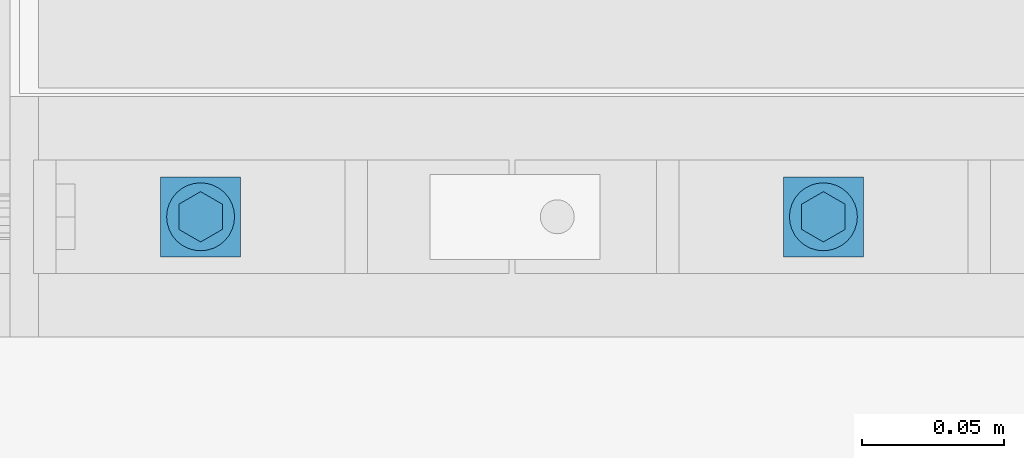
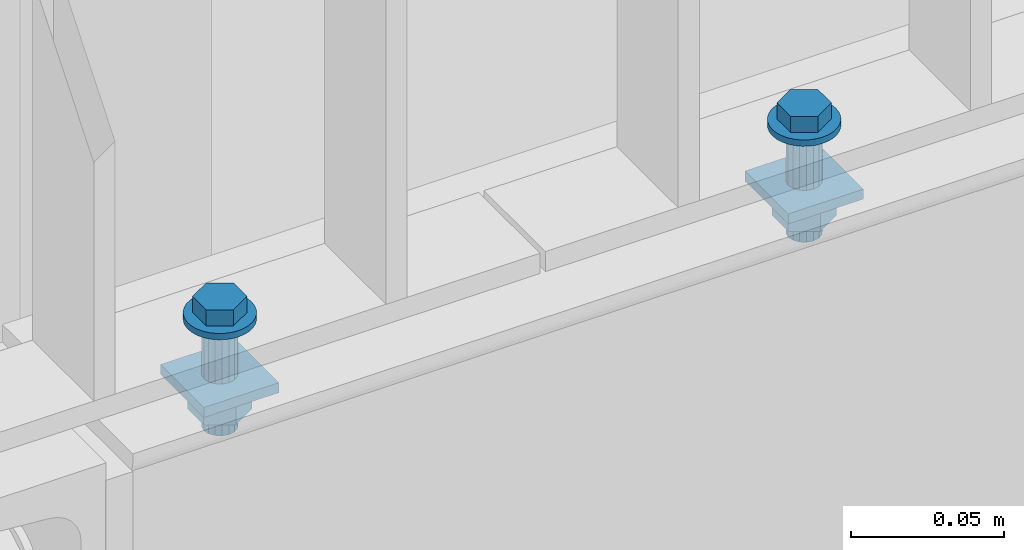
# One storey, part 54 of 145: 2 mechanical fasteners.
"""IFC2X3 building model written with IfcOpenShell, lengths in millimetres."""

import ifcopenshell
import ifcopenshell.guid

model = None  # the IFC model being written
_history = None  # IfcOwnerHistory: only IFC2X3 demands one
_inside = {}  # id of a spatial element -> (the spatial element, [elements in it])
_under = {}  # id of a project, library or spatial element -> (it, [spatial elements below it])
_declared = {}  # id of a project -> (the project, [libraries it declares])
_typed = {}  # id of a type object -> (the type object, [elements of that type])
_made_of = {}  # id of a material, layer set ... -> (it, [elements and type objects made of it])


def new_model(schema):
    """Start an empty IFC model of exactly this schema.

    Asked for "IFC4X3", IfcOpenShell would pick the latest addendum, in which some entities
    have other attributes; the version numbers below select the first issue.
    IFC2X3 requires an IfcOwnerHistory on every rooted entity: one is made here for all.
    """
    global model, _history
    if schema == "IFC4X3":
        model = ifcopenshell.file(schema_version=(4, 3, 0, 0))
    else:
        model = ifcopenshell.file(schema=schema)
    _inside.clear()
    _under.clear()
    _declared.clear()
    _typed.clear()
    _made_of.clear()
    _history = None
    if model.schema == "IFC2X3":
        org = make("IfcOrganization", Name="unknown")
        user = make(
            "IfcPersonAndOrganization",
            ThePerson=make("IfcPerson", FamilyName="unknown"),
            TheOrganization=org,
        )
        app = make(
            "IfcApplication",
            ApplicationDeveloper=org,
            Version="unknown",
            ApplicationFullName="unknown",
            ApplicationIdentifier="unknown",
        )
        _history = make(
            "IfcOwnerHistory",
            OwningUser=user,
            OwningApplication=app,
            ChangeAction="ADDED",
            CreationDate=0,
        )
    return model


def make(cls, **values):
    """One entity of the class cls with the attributes given. An attribute that is None is left unset."""
    return model.create_entity(
        cls, **{name: value for name, value in values.items() if value is not None}
    )


def entity(cls, *values):
    """Any entity or typed value of the class cls, its attributes in the order of the schema. None: left unset."""
    e = model.create_entity(cls)
    for i, value in enumerate(values):
        if value is not None:
            e[i] = value
    return e


def rooted(cls, **values):
    """An entity with a GlobalId (a new one), such as an element, a storey or a relation."""
    return make(cls, GlobalId=ifcopenshell.guid.new(), OwnerHistory=_history, **values)


def si_unit(unit_type, name, prefix=None):
    """IfcSIUnit, for example si_unit("LENGTHUNIT", "METRE", prefix="MILLI")."""
    return make("IfcSIUnit", UnitType=unit_type, Prefix=prefix, Name=name)


def converted_unit(unit_type, name, factor, base, dimensions=None, offset=None):
    """IfcConversionBasedUnit, such as the inch: factor (a typed value) times the base unit."""
    return make(
        "IfcConversionBasedUnit"
        if offset is None
        else "IfcConversionBasedUnitWithOffset",
        ConversionOffset=offset,
        Dimensions=None
        if dimensions is None
        else entity("IfcDimensionalExponents", *dimensions),
        UnitType=unit_type,
        Name=name,
        ConversionFactor=make(
            "IfcMeasureWithUnit", ValueComponent=factor, UnitComponent=base
        ),
    )


def assignment(units):
    """IfcUnitAssignment: the units of a project."""
    return None if units is None else make("IfcUnitAssignment", Units=units)


def point(xyz):
    """IfcCartesianPoint."""
    return None if xyz is None else make("IfcCartesianPoint", Coordinates=xyz)


def direction(xyz):
    """IfcDirection."""
    return None if xyz is None else make("IfcDirection", DirectionRatios=xyz)


def frame(location, z_axis=None, x_axis=None):
    """IfcAxis2Placement3D, a coordinate frame: its origin and axes. An axis left out is left unset."""
    return make(
        "IfcAxis2Placement3D",
        Location=point(location),
        Axis=direction(z_axis),
        RefDirection=direction(x_axis),
    )


def origin_with_axes():
    """The frame at (0, 0, 0) with the z axis (0, 0, 1) and the x axis (1, 0, 0) written out."""
    return frame((0.0, 0.0, 0.0), z_axis=(0.0, 0.0, 1.0), x_axis=(1.0, 0.0, 0.0))


def place(relative_to, where):
    """IfcLocalPlacement: puts the frame where relative to a parent placement (None: the world)."""
    return make(
        "IfcLocalPlacement", PlacementRelTo=relative_to, RelativePlacement=where
    )


def context(
    kind, dimensions, precision=None, world=None, true_north=None, identifier=None
):
    """IfcGeometricRepresentationContext, for example the 3D "Model" context."""
    return make(
        "IfcGeometricRepresentationContext",
        ContextIdentifier=identifier,
        ContextType=kind,
        CoordinateSpaceDimension=dimensions,
        Precision=precision,
        WorldCoordinateSystem=world,
        TrueNorth=true_north,
    )


def project(units=None, contexts=None):
    """IfcProject with its units and contexts."""
    return rooted(
        "IfcProject",
        Name="project",
        RepresentationContexts=contexts,
        UnitsInContext=assignment(units),
    )


def spatial(cls, under=None, at=None, **own):
    """A site, building, storey or space (cls), placed at a placement, below another one or the project."""
    s = rooted(cls, ObjectPlacement=at, **own)
    if under is not None:
        _under.setdefault(under.id(), (under, []))[1].append(s)
    return s


def faces_of(points, faces, orient=None, outer=None):
    """IfcFace entities. A face is a list of loops; a loop is a list of indices into points, from 0.

    orient and outer hold one flag for each loop. By default every Orientation is true, the
    first loop of a face is its IfcFaceOuterBound and the others are IfcFaceBound.
    """
    made = []
    for i, loops in enumerate(faces):
        bounds = []
        for j, loop in enumerate(loops):
            is_outer = j == 0 if outer is None else outer[i][j]
            bounds.append(
                make(
                    "IfcFaceOuterBound" if is_outer else "IfcFaceBound",
                    Bound=make("IfcPolyLoop", Polygon=[points[k] for k in loop]),
                    Orientation=True if orient is None else orient[i][j],
                )
            )
        made.append(make("IfcFace", Bounds=bounds))
    return made


def faceted_brep(points, faces, orient=None, outer=None, voids=None):
    """IfcFacetedBrep: a solid bounded by flat faces; with voids (closed shells), ...WithVoids."""
    shared = [point(p) for p in points]
    hull = make("IfcClosedShell", CfsFaces=faces_of(shared, faces, orient, outer))
    if voids is None:
        return make("IfcFacetedBrep", Outer=hull)
    return make(
        "IfcFacetedBrepWithVoids",
        Outer=hull,
        Voids=[
            make(cls, CfsFaces=faces_of(shared, fs, o, b)) for cls, fs, o, b in voids
        ],
    )


def shape(context_of_items, identifier, shape_type, items):
    """IfcShapeRepresentation: the items that make up one representation, for example the "Body"."""
    return make(
        "IfcShapeRepresentation",
        ContextOfItems=context_of_items,
        RepresentationIdentifier=identifier,
        RepresentationType=shape_type,
        Items=items,
    )


def made_of(thing, what):
    """Note that an element or type object is made of a material, layer set ...; save() writes the relation."""
    if what is not None:
        _made_of.setdefault(what.id(), (what, []))[1].append(thing)
    return thing


def element(
    cls,
    number,
    at=None,
    inside=None,
    cuts=None,
    type_object=None,
    material=None,
    context=None,
    identifier="Body",
    shape_type=None,
    held_by="IfcProductDefinitionShape",
    body=None,
    shapes=None,
    **own,
):
    """One element of the class cls, such as IfcWall. Its Tag is "e" and its number.

    at: its placement. inside: the storey or other place that contains it. cuts: it is an
    opening in that element (IfcRelVoidsElement). A single representation is given by context,
    identifier, shape_type and body (its items); several are given by shapes. held_by: the class
    of the entity that holds the representations. save() writes the other relations.
    """
    e = rooted(cls, Tag="e%d" % number, ObjectPlacement=at, **own)
    if body is not None:
        shapes = [shape(context, identifier, shape_type, body)]
    if shapes is not None:
        e.Representation = make(held_by, Representations=shapes)
    if inside is not None:
        _inside.setdefault(inside.id(), (inside, []))[1].append(e)
    if cuts is not None:
        rooted(
            "IfcRelVoidsElement", RelatingBuildingElement=cuts, RelatedOpeningElement=e
        )
    if type_object is not None:
        _typed.setdefault(type_object.id(), (type_object, []))[1].append(e)
    return made_of(e, material)


def aggregate(whole, parts):
    """IfcRelAggregates: a whole, such as a stair, and the parts it consists of."""
    return rooted("IfcRelAggregates", RelatingObject=whole, RelatedObjects=parts)


def save(model, path):
    """Write the relations noted so far, then the file.

    IfcRelAggregates (storeys below a building ...), IfcRelContainedInSpatialStructure (elements
    in a storey), IfcRelDefinesByType, IfcRelAssociatesMaterial and IfcRelDeclares: one each for
    every whole, place, type object, material and project.
    """
    for whole, parts in _under.values():
        aggregate(whole, parts)
    for where, things in _inside.values():
        rooted(
            "IfcRelContainedInSpatialStructure",
            RelatedElements=things,
            RelatingStructure=where,
        )
    for kind, things in _typed.values():
        rooted("IfcRelDefinesByType", RelatedObjects=things, RelatingType=kind)
    for what, things in _made_of.values():
        rooted("IfcRelAssociatesMaterial", RelatedObjects=things, RelatingMaterial=what)
    for by, libraries in _declared.values():
        rooted("IfcRelDeclares", RelatingContext=by, RelatedDefinitions=libraries)
    model.write(path)


model = new_model("IFC2X3")

# Units and contexts
model_context = context("Model", 3, precision=1e-09, world=origin_with_axes())
ifc_project = project(units=[si_unit("LENGTHUNIT", "METRE", prefix="MILLI"), si_unit("AREAUNIT", "SQUARE_METRE"), si_unit("VOLUMEUNIT", "CUBIC_METRE"), converted_unit("PLANEANGLEUNIT", "DEGREE", entity("IfcPlaneAngleMeasure", 0.01745329), si_unit("PLANEANGLEUNIT", "RADIAN"), dimensions=[0, 0, 0, 0, 0, 0, 0])], contexts=[model_context])

# Site, building, storey
site_placement = place(None, origin_with_axes())
site = spatial("IfcSite", under=ifc_project, at=site_placement, Name="BZ1 Grund- und Mittelschule 85716 Unterschlei?heim", CompositionType="ELEMENT")
building_placement = place(site_placement, origin_with_axes())
building = spatial("IfcBuilding", under=site, at=building_placement, Name="Struktur 1", CompositionType="ELEMENT")
storey_placement = place(building_placement, origin_with_axes())
storey = spatial("IfcBuildingStorey", under=building, at=storey_placement, Name="Default Storey", CompositionType="ELEMENT", Elevation=0.0)

# Mechanical fasteners
mechanical_fastener_1_placement = place(None, origin_with_axes())
element("IfcMechanicalFastener", 1, at=mechanical_fastener_1_placement, inside=storey, ObjectType="-", NominalDiameter=12.0, NominalLength=45.0, context=model_context, shape_type="Brep", body=[
    faceted_brep([(16070.141490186, -1512.502, 3308.000000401), (16070.141490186, -1512.502, 3310.500000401), (16069.910913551, -1514.843083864, 3310.500000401), (16069.910913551, -1514.843083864, 3308.000000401), (16069.228044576, -1517.094201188, 3310.500000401), (16069.228044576, -1517.094201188, 3308.000000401), (16068.119125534, -1519.168842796, 3310.500000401), (16068.119125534, -1519.168842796, 3308.000000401), (16066.62677156, -1520.987281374, 3310.500000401), (16066.62677156, -1520.987281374, 3308.000000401), (16064.808332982, -1522.479635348, 3310.500000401), (16064.808332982, -1522.479635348, 3308.000000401), (16062.733691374, -1523.58855439, 3310.500000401), (16062.733691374, -1523.58855439, 3308.000000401), (16060.48257405, -1524.271423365, 3310.500000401), (16060.48257405, -1524.271423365, 3308.000000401), (16058.141490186, -1524.502, 3310.500000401), (16058.141490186, -1524.502, 3308.000000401), (16055.800406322, -1524.271423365, 3310.500000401), (16055.800406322, -1524.271423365, 3308.000000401), (16053.549288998, -1523.58855439, 3310.500000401), (16053.549288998, -1523.58855439, 3308.000000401), (16051.47464739, -1522.479635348, 3310.500000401), (16051.47464739, -1522.479635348, 3308.000000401), (16049.656208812, -1520.987281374, 3310.500000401), (16049.656208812, -1520.987281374, 3308.000000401), (16048.163854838, -1519.168842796, 3310.500000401), (16048.163854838, -1519.168842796, 3308.000000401), (16047.054935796, -1517.094201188, 3310.500000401), (16047.054935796, -1517.094201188, 3308.000000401), (16046.372066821, -1514.843083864, 3310.500000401), (16046.372066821, -1514.843083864, 3308.000000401), (16046.141490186, -1512.502, 3310.500000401), (16046.141490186, -1512.502, 3308.000000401), (16046.372066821, -1510.160916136, 3310.500000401), (16046.372066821, -1510.160916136, 3308.000000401), (16047.054935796, -1507.909798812, 3310.500000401), (16047.054935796, -1507.909798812, 3308.000000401), (16048.163854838, -1505.835157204, 3310.500000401), (16048.163854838, -1505.835157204, 3308.000000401), (16049.656208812, -1504.016718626, 3310.500000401), (16049.656208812, -1504.016718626, 3308.000000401), (16051.47464739, -1502.524364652, 3310.500000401), (16051.47464739, -1502.524364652, 3308.000000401), (16053.549288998, -1501.41544561, 3310.500000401), (16053.549288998, -1501.41544561, 3308.000000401), (16055.800406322, -1500.732576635, 3310.500000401), (16055.800406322, -1500.732576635, 3308.000000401), (16058.141490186, -1500.502, 3310.500000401), (16058.141490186, -1500.502, 3308.000000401), (16060.48257405, -1500.732576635, 3310.500000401), (16060.48257405, -1500.732576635, 3308.000000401), (16062.733691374, -1501.41544561, 3310.500000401), (16062.733691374, -1501.41544561, 3308.000000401), (16064.808332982, -1502.524364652, 3310.500000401), (16064.808332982, -1502.524364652, 3308.000000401), (16066.62677156, -1504.016718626, 3310.500000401), (16066.62677156, -1504.016718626, 3308.000000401), (16068.119125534, -1505.835157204, 3310.500000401), (16068.119125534, -1505.835157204, 3308.000000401), (16069.228044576, -1507.909798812, 3310.500000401), (16069.228044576, -1507.909798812, 3308.000000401), (16069.910913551, -1510.160916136, 3310.500000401), (16069.910913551, -1510.160916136, 3308.000000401)], [[[0, 1, 2, 3]], [[3, 2, 4, 5]], [[5, 4, 6, 7]], [[7, 6, 8, 9]], [[9, 8, 10, 11]], [[11, 10, 12, 13]], [[13, 12, 14, 15]], [[15, 14, 16, 17]], [[17, 16, 18, 19]], [[19, 18, 20, 21]], [[21, 20, 22, 23]], [[23, 22, 24, 25]], [[25, 24, 26, 27]], [[27, 26, 28, 29]], [[29, 28, 30, 31]], [[31, 30, 32, 33]], [[33, 32, 34, 35]], [[35, 34, 36, 37]], [[37, 36, 38, 39]], [[39, 38, 40, 41]], [[41, 40, 42, 43]], [[43, 42, 44, 45]], [[45, 44, 46, 47]], [[47, 46, 48, 49]], [[49, 48, 50, 51]], [[51, 50, 52, 53]], [[53, 52, 54, 55]], [[55, 54, 56, 57]], [[57, 56, 58, 59]], [[59, 58, 60, 61]], [[61, 60, 62, 63]], [[63, 62, 1, 0]], [[2, 1, 62, 60, 58, 56, 54, 52, 50, 48, 46, 44, 42, 40, 38, 36, 34, 32, 30, 28, 26, 24, 22, 20, 18, 16, 14, 12, 10, 8, 6, 4]], [[63, 0, 3, 5, 7, 9, 11, 13, 15, 17, 19, 21, 23, 25, 27, 29, 31, 33, 35, 37, 39, 41, 43, 45, 47, 49, 51, 53, 55, 57, 59, 61]]]),
    faceted_brep([(16050.446854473, -1516.9445, 3316.900000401), (16050.446854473, -1516.9445, 3310.500000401), (16058.141490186, -1521.387, 3310.500000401), (16058.141490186, -1521.387, 3316.900000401), (16065.836125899, -1516.9445, 3310.500000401), (16065.836125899, -1516.9445, 3316.900000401), (16065.836125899, -1508.0595, 3310.500000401), (16065.836125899, -1508.0595, 3316.900000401), (16058.141490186, -1503.617, 3310.500000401), (16058.141490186, -1503.617, 3316.900000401), (16050.446854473, -1508.0595, 3310.500000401), (16050.446854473, -1508.0595, 3316.900000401)], [[[0, 1, 2, 3]], [[3, 2, 4, 5]], [[5, 4, 6, 7]], [[7, 6, 8, 9]], [[9, 8, 10, 11]], [[11, 10, 1, 0]], [[3, 5, 7, 9, 11, 0]], [[2, 1, 10, 8, 6, 4]]]),
    faceted_brep([(16064.141490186, -1512.502, 3286.197294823), (16064.141490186, -1512.502, 3308.000000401), (16063.684767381, -1514.798100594, 3308.000000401), (16063.684767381, -1514.798100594, 3286.197294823), (16062.384130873, -1516.744640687, 3308.000000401), (16062.384130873, -1516.744640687, 3286.197294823), (16060.43759078, -1518.045277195, 3308.000000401), (16060.43759078, -1518.045277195, 3286.197294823), (16058.141490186, -1518.502, 3308.000000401), (16058.141490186, -1518.502, 3286.197294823), (16055.845389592, -1518.045277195, 3308.000000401), (16055.845389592, -1518.045277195, 3286.197294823), (16053.898849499, -1516.744640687, 3308.000000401), (16053.898849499, -1516.744640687, 3286.197294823), (16052.598212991, -1514.798100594, 3308.000000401), (16052.598212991, -1514.798100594, 3286.197294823), (16052.141490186, -1512.502, 3308.000000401), (16052.141490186, -1512.502, 3286.197294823), (16052.598212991, -1510.205899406, 3308.000000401), (16052.598212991, -1510.205899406, 3286.197294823), (16053.898849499, -1508.259359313, 3308.000000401), (16053.898849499, -1508.259359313, 3286.197294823), (16055.845389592, -1506.958722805, 3308.000000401), (16055.845389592, -1506.958722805, 3286.197294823), (16058.141490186, -1506.502, 3308.000000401), (16058.141490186, -1506.502, 3286.197294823), (16060.43759078, -1506.958722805, 3308.000000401), (16060.43759078, -1506.958722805, 3286.197294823), (16062.384130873, -1508.259359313, 3308.000000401), (16062.384130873, -1508.259359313, 3286.197294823), (16063.684767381, -1510.205899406, 3308.000000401), (16063.684767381, -1510.205899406, 3286.197294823)], [[[0, 1, 2, 3]], [[3, 2, 4, 5]], [[5, 4, 6, 7]], [[7, 6, 8, 9]], [[9, 8, 10, 11]], [[11, 10, 12, 13]], [[13, 12, 14, 15]], [[15, 14, 16, 17]], [[17, 16, 18, 19]], [[19, 18, 20, 21]], [[21, 20, 22, 23]], [[23, 22, 24, 25]], [[25, 24, 26, 27]], [[27, 26, 28, 29]], [[29, 28, 30, 31]], [[31, 30, 1, 0]], [[2, 1, 30, 28, 26, 24, 22, 20, 18, 16, 14, 12, 10, 8, 6, 4]], [[31, 0, 3, 5, 7, 9, 11, 13, 15, 17, 19, 21, 23, 25, 27, 29]]]),
    faceted_brep([(16043.999354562, -1526.644135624, 3286.197294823), (16043.999354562, -1526.644135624, 3282.197294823), (16072.28362581, -1526.644135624, 3282.197294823), (16072.28362581, -1526.644135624, 3286.197294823), (16072.28362581, -1498.359864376, 3282.197294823), (16072.28362581, -1498.359864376, 3286.197294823), (16043.999354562, -1498.359864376, 3282.197294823), (16043.999354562, -1498.359864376, 3286.197294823)], [[[0, 1, 2, 3]], [[3, 2, 4, 5]], [[5, 4, 6, 7]], [[7, 6, 1, 0]], [[3, 5, 7, 0]], [[2, 1, 6, 4]]]),
    faceted_brep([(16049.004922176, -1517.777, 3282.197294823), (16049.004922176, -1517.777, 3272.197294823), (16058.141490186, -1523.052, 3272.197294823), (16058.141490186, -1523.052, 3282.197294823), (16067.278058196, -1517.777, 3272.197294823), (16067.278058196, -1517.777, 3282.197294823), (16067.278058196, -1507.227, 3272.197294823), (16067.278058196, -1507.227, 3282.197294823), (16058.141490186, -1501.952, 3272.197294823), (16058.141490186, -1501.952, 3282.197294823), (16049.004922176, -1507.227, 3272.197294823), (16049.004922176, -1507.227, 3282.197294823)], [[[0, 1, 2, 3]], [[3, 2, 4, 5]], [[5, 4, 6, 7]], [[7, 6, 8, 9]], [[9, 8, 10, 11]], [[11, 10, 1, 0]], [[3, 5, 7, 9, 11, 0]], [[2, 1, 10, 8, 6, 4]]]),
    faceted_brep([(16064.141490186, -1512.502, 3265.500000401), (16064.141490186, -1512.502, 3272.197294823), (16063.684767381, -1514.798100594, 3272.197294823), (16063.684767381, -1514.798100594, 3265.500000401), (16062.384130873, -1516.744640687, 3272.197294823), (16062.384130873, -1516.744640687, 3265.500000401), (16060.43759078, -1518.045277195, 3272.197294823), (16060.43759078, -1518.045277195, 3265.500000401), (16058.141490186, -1518.502, 3272.197294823), (16058.141490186, -1518.502, 3265.500000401), (16055.845389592, -1518.045277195, 3272.197294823), (16055.845389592, -1518.045277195, 3265.500000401), (16053.898849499, -1516.744640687, 3272.197294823), (16053.898849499, -1516.744640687, 3265.500000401), (16052.598212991, -1514.798100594, 3272.197294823), (16052.598212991, -1514.798100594, 3265.500000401), (16052.141490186, -1512.502, 3272.197294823), (16052.141490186, -1512.502, 3265.500000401), (16052.598212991, -1510.205899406, 3272.197294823), (16052.598212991, -1510.205899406, 3265.500000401), (16053.898849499, -1508.259359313, 3272.197294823), (16053.898849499, -1508.259359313, 3265.500000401), (16055.845389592, -1506.958722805, 3272.197294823), (16055.845389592, -1506.958722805, 3265.500000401), (16058.141490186, -1506.502, 3272.197294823), (16058.141490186, -1506.502, 3265.500000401), (16060.43759078, -1506.958722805, 3272.197294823), (16060.43759078, -1506.958722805, 3265.500000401), (16062.384130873, -1508.259359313, 3272.197294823), (16062.384130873, -1508.259359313, 3265.500000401), (16063.684767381, -1510.205899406, 3272.197294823), (16063.684767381, -1510.205899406, 3265.500000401)], [[[0, 1, 2, 3]], [[3, 2, 4, 5]], [[5, 4, 6, 7]], [[7, 6, 8, 9]], [[9, 8, 10, 11]], [[11, 10, 12, 13]], [[13, 12, 14, 15]], [[15, 14, 16, 17]], [[17, 16, 18, 19]], [[19, 18, 20, 21]], [[21, 20, 22, 23]], [[23, 22, 24, 25]], [[25, 24, 26, 27]], [[27, 26, 28, 29]], [[29, 28, 30, 31]], [[31, 30, 1, 0]], [[2, 1, 30, 28, 26, 24, 22, 20, 18, 16, 14, 12, 10, 8, 6, 4]], [[31, 0, 3, 5, 7, 9, 11, 13, 15, 17, 19, 21, 23, 25, 27, 29]]]),
])
mechanical_fastener_2_placement = place(None, origin_with_axes())
element("IfcMechanicalFastener", 2, at=mechanical_fastener_2_placement, inside=storey, ObjectType="-", NominalDiameter=12.0, NominalLength=45.0, context=model_context, shape_type="Brep", body=[
    faceted_brep([(15850.141490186, -1512.502, 3308.000000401), (15850.141490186, -1512.502, 3310.500000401), (15849.910913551, -1514.843083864, 3310.500000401), (15849.910913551, -1514.843083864, 3308.000000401), (15849.228044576, -1517.094201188, 3310.500000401), (15849.228044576, -1517.094201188, 3308.000000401), (15848.119125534, -1519.168842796, 3310.500000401), (15848.119125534, -1519.168842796, 3308.000000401), (15846.62677156, -1520.987281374, 3310.500000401), (15846.62677156, -1520.987281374, 3308.000000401), (15844.808332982, -1522.479635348, 3310.500000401), (15844.808332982, -1522.479635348, 3308.000000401), (15842.733691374, -1523.58855439, 3310.500000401), (15842.733691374, -1523.58855439, 3308.000000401), (15840.48257405, -1524.271423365, 3310.500000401), (15840.48257405, -1524.271423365, 3308.000000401), (15838.141490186, -1524.502, 3310.500000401), (15838.141490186, -1524.502, 3308.000000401), (15835.800406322, -1524.271423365, 3310.500000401), (15835.800406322, -1524.271423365, 3308.000000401), (15833.549288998, -1523.58855439, 3310.500000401), (15833.549288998, -1523.58855439, 3308.000000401), (15831.47464739, -1522.479635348, 3310.500000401), (15831.47464739, -1522.479635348, 3308.000000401), (15829.656208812, -1520.987281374, 3310.500000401), (15829.656208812, -1520.987281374, 3308.000000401), (15828.163854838, -1519.168842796, 3310.500000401), (15828.163854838, -1519.168842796, 3308.000000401), (15827.054935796, -1517.094201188, 3310.500000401), (15827.054935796, -1517.094201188, 3308.000000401), (15826.372066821, -1514.843083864, 3310.500000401), (15826.372066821, -1514.843083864, 3308.000000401), (15826.141490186, -1512.502, 3310.500000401), (15826.141490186, -1512.502, 3308.000000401), (15826.372066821, -1510.160916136, 3310.500000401), (15826.372066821, -1510.160916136, 3308.000000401), (15827.054935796, -1507.909798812, 3310.500000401), (15827.054935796, -1507.909798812, 3308.000000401), (15828.163854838, -1505.835157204, 3310.500000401), (15828.163854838, -1505.835157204, 3308.000000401), (15829.656208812, -1504.016718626, 3310.500000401), (15829.656208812, -1504.016718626, 3308.000000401), (15831.47464739, -1502.524364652, 3310.500000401), (15831.47464739, -1502.524364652, 3308.000000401), (15833.549288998, -1501.41544561, 3310.500000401), (15833.549288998, -1501.41544561, 3308.000000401), (15835.800406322, -1500.732576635, 3310.500000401), (15835.800406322, -1500.732576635, 3308.000000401), (15838.141490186, -1500.502, 3310.500000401), (15838.141490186, -1500.502, 3308.000000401), (15840.48257405, -1500.732576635, 3310.500000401), (15840.48257405, -1500.732576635, 3308.000000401), (15842.733691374, -1501.41544561, 3310.500000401), (15842.733691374, -1501.41544561, 3308.000000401), (15844.808332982, -1502.524364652, 3310.500000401), (15844.808332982, -1502.524364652, 3308.000000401), (15846.62677156, -1504.016718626, 3310.500000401), (15846.62677156, -1504.016718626, 3308.000000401), (15848.119125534, -1505.835157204, 3310.500000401), (15848.119125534, -1505.835157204, 3308.000000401), (15849.228044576, -1507.909798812, 3310.500000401), (15849.228044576, -1507.909798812, 3308.000000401), (15849.910913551, -1510.160916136, 3310.500000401), (15849.910913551, -1510.160916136, 3308.000000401)], [[[0, 1, 2, 3]], [[3, 2, 4, 5]], [[5, 4, 6, 7]], [[7, 6, 8, 9]], [[9, 8, 10, 11]], [[11, 10, 12, 13]], [[13, 12, 14, 15]], [[15, 14, 16, 17]], [[17, 16, 18, 19]], [[19, 18, 20, 21]], [[21, 20, 22, 23]], [[23, 22, 24, 25]], [[25, 24, 26, 27]], [[27, 26, 28, 29]], [[29, 28, 30, 31]], [[31, 30, 32, 33]], [[33, 32, 34, 35]], [[35, 34, 36, 37]], [[37, 36, 38, 39]], [[39, 38, 40, 41]], [[41, 40, 42, 43]], [[43, 42, 44, 45]], [[45, 44, 46, 47]], [[47, 46, 48, 49]], [[49, 48, 50, 51]], [[51, 50, 52, 53]], [[53, 52, 54, 55]], [[55, 54, 56, 57]], [[57, 56, 58, 59]], [[59, 58, 60, 61]], [[61, 60, 62, 63]], [[63, 62, 1, 0]], [[2, 1, 62, 60, 58, 56, 54, 52, 50, 48, 46, 44, 42, 40, 38, 36, 34, 32, 30, 28, 26, 24, 22, 20, 18, 16, 14, 12, 10, 8, 6, 4]], [[63, 0, 3, 5, 7, 9, 11, 13, 15, 17, 19, 21, 23, 25, 27, 29, 31, 33, 35, 37, 39, 41, 43, 45, 47, 49, 51, 53, 55, 57, 59, 61]]]),
    faceted_brep([(15830.446854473, -1516.9445, 3316.900000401), (15830.446854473, -1516.9445, 3310.500000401), (15838.141490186, -1521.387, 3310.500000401), (15838.141490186, -1521.387, 3316.900000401), (15845.836125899, -1516.9445, 3310.500000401), (15845.836125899, -1516.9445, 3316.900000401), (15845.836125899, -1508.0595, 3310.500000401), (15845.836125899, -1508.0595, 3316.900000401), (15838.141490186, -1503.617, 3310.500000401), (15838.141490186, -1503.617, 3316.900000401), (15830.446854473, -1508.0595, 3310.500000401), (15830.446854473, -1508.0595, 3316.900000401)], [[[0, 1, 2, 3]], [[3, 2, 4, 5]], [[5, 4, 6, 7]], [[7, 6, 8, 9]], [[9, 8, 10, 11]], [[11, 10, 1, 0]], [[3, 5, 7, 9, 11, 0]], [[2, 1, 10, 8, 6, 4]]]),
    faceted_brep([(15844.141490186, -1512.502, 3286.197294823), (15844.141490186, -1512.502, 3308.000000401), (15843.684767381, -1514.798100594, 3308.000000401), (15843.684767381, -1514.798100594, 3286.197294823), (15842.384130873, -1516.744640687, 3308.000000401), (15842.384130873, -1516.744640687, 3286.197294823), (15840.43759078, -1518.045277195, 3308.000000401), (15840.43759078, -1518.045277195, 3286.197294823), (15838.141490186, -1518.502, 3308.000000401), (15838.141490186, -1518.502, 3286.197294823), (15835.845389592, -1518.045277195, 3308.000000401), (15835.845389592, -1518.045277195, 3286.197294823), (15833.898849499, -1516.744640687, 3308.000000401), (15833.898849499, -1516.744640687, 3286.197294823), (15832.598212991, -1514.798100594, 3308.000000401), (15832.598212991, -1514.798100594, 3286.197294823), (15832.141490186, -1512.502, 3308.000000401), (15832.141490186, -1512.502, 3286.197294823), (15832.598212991, -1510.205899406, 3308.000000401), (15832.598212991, -1510.205899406, 3286.197294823), (15833.898849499, -1508.259359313, 3308.000000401), (15833.898849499, -1508.259359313, 3286.197294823), (15835.845389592, -1506.958722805, 3308.000000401), (15835.845389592, -1506.958722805, 3286.197294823), (15838.141490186, -1506.502, 3308.000000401), (15838.141490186, -1506.502, 3286.197294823), (15840.43759078, -1506.958722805, 3308.000000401), (15840.43759078, -1506.958722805, 3286.197294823), (15842.384130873, -1508.259359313, 3308.000000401), (15842.384130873, -1508.259359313, 3286.197294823), (15843.684767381, -1510.205899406, 3308.000000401), (15843.684767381, -1510.205899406, 3286.197294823)], [[[0, 1, 2, 3]], [[3, 2, 4, 5]], [[5, 4, 6, 7]], [[7, 6, 8, 9]], [[9, 8, 10, 11]], [[11, 10, 12, 13]], [[13, 12, 14, 15]], [[15, 14, 16, 17]], [[17, 16, 18, 19]], [[19, 18, 20, 21]], [[21, 20, 22, 23]], [[23, 22, 24, 25]], [[25, 24, 26, 27]], [[27, 26, 28, 29]], [[29, 28, 30, 31]], [[31, 30, 1, 0]], [[2, 1, 30, 28, 26, 24, 22, 20, 18, 16, 14, 12, 10, 8, 6, 4]], [[31, 0, 3, 5, 7, 9, 11, 13, 15, 17, 19, 21, 23, 25, 27, 29]]]),
    faceted_brep([(15823.999354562, -1526.644135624, 3286.197294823), (15823.999354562, -1526.644135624, 3282.197294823), (15852.28362581, -1526.644135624, 3282.197294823), (15852.28362581, -1526.644135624, 3286.197294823), (15852.28362581, -1498.359864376, 3282.197294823), (15852.28362581, -1498.359864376, 3286.197294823), (15823.999354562, -1498.359864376, 3282.197294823), (15823.999354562, -1498.359864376, 3286.197294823)], [[[0, 1, 2, 3]], [[3, 2, 4, 5]], [[5, 4, 6, 7]], [[7, 6, 1, 0]], [[3, 5, 7, 0]], [[2, 1, 6, 4]]]),
    faceted_brep([(15829.004922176, -1517.777, 3282.197294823), (15829.004922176, -1517.777, 3272.197294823), (15838.141490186, -1523.052, 3272.197294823), (15838.141490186, -1523.052, 3282.197294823), (15847.278058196, -1517.777, 3272.197294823), (15847.278058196, -1517.777, 3282.197294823), (15847.278058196, -1507.227, 3272.197294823), (15847.278058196, -1507.227, 3282.197294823), (15838.141490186, -1501.952, 3272.197294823), (15838.141490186, -1501.952, 3282.197294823), (15829.004922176, -1507.227, 3272.197294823), (15829.004922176, -1507.227, 3282.197294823)], [[[0, 1, 2, 3]], [[3, 2, 4, 5]], [[5, 4, 6, 7]], [[7, 6, 8, 9]], [[9, 8, 10, 11]], [[11, 10, 1, 0]], [[3, 5, 7, 9, 11, 0]], [[2, 1, 10, 8, 6, 4]]]),
    faceted_brep([(15844.141490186, -1512.502, 3265.500000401), (15844.141490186, -1512.502, 3272.197294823), (15843.684767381, -1514.798100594, 3272.197294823), (15843.684767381, -1514.798100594, 3265.500000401), (15842.384130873, -1516.744640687, 3272.197294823), (15842.384130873, -1516.744640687, 3265.500000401), (15840.43759078, -1518.045277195, 3272.197294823), (15840.43759078, -1518.045277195, 3265.500000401), (15838.141490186, -1518.502, 3272.197294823), (15838.141490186, -1518.502, 3265.500000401), (15835.845389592, -1518.045277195, 3272.197294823), (15835.845389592, -1518.045277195, 3265.500000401), (15833.898849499, -1516.744640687, 3272.197294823), (15833.898849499, -1516.744640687, 3265.500000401), (15832.598212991, -1514.798100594, 3272.197294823), (15832.598212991, -1514.798100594, 3265.500000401), (15832.141490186, -1512.502, 3272.197294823), (15832.141490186, -1512.502, 3265.500000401), (15832.598212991, -1510.205899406, 3272.197294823), (15832.598212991, -1510.205899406, 3265.500000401), (15833.898849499, -1508.259359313, 3272.197294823), (15833.898849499, -1508.259359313, 3265.500000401), (15835.845389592, -1506.958722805, 3272.197294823), (15835.845389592, -1506.958722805, 3265.500000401), (15838.141490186, -1506.502, 3272.197294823), (15838.141490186, -1506.502, 3265.500000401), (15840.43759078, -1506.958722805, 3272.197294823), (15840.43759078, -1506.958722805, 3265.500000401), (15842.384130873, -1508.259359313, 3272.197294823), (15842.384130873, -1508.259359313, 3265.500000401), (15843.684767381, -1510.205899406, 3272.197294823), (15843.684767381, -1510.205899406, 3265.500000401)], [[[0, 1, 2, 3]], [[3, 2, 4, 5]], [[5, 4, 6, 7]], [[7, 6, 8, 9]], [[9, 8, 10, 11]], [[11, 10, 12, 13]], [[13, 12, 14, 15]], [[15, 14, 16, 17]], [[17, 16, 18, 19]], [[19, 18, 20, 21]], [[21, 20, 22, 23]], [[23, 22, 24, 25]], [[25, 24, 26, 27]], [[27, 26, 28, 29]], [[29, 28, 30, 31]], [[31, 30, 1, 0]], [[2, 1, 30, 28, 26, 24, 22, 20, 18, 16, 14, 12, 10, 8, 6, 4]], [[31, 0, 3, 5, 7, 9, 11, 13, 15, 17, 19, 21, 23, 25, 27, 29]]]),
])

save(model, "model.ifc")
